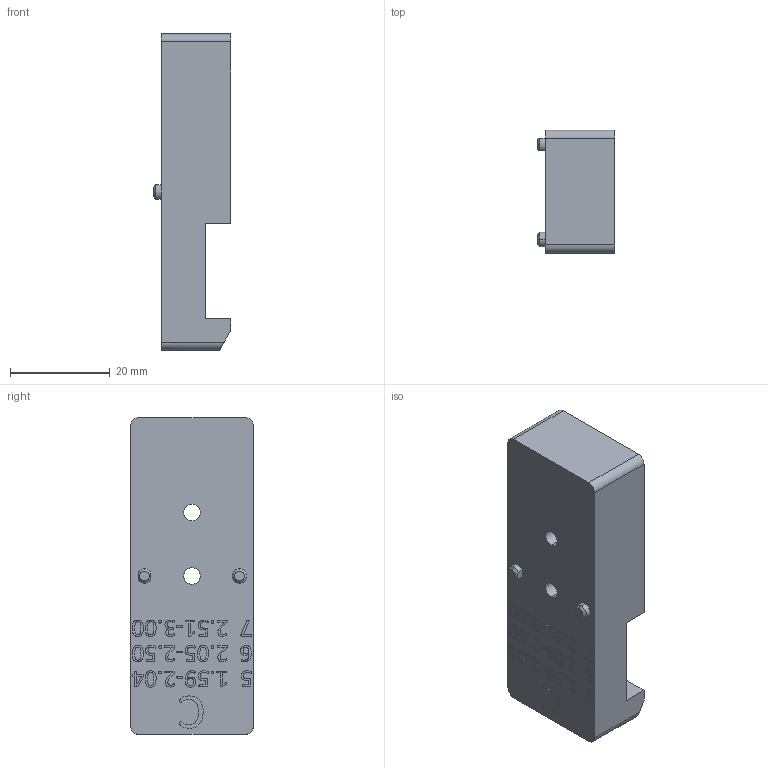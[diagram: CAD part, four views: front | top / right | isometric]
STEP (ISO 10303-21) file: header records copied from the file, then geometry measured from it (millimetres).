
FILE_DESCRIPTION (( 'STEP AP203' ), '1' );
FILE_NAME ('5011206_REV-A - SHAFT FINGER C.STEP', '2024-11-07T18:41:56', ( '' ), ( '' ), 'SwSTEP 2.0', 'SolidWorks 2019', '' );
FILE_SCHEMA (( 'CONFIG_CONTROL_DESIGN' ));
Length unit declared in the file: inch
Products named in the file (1): 5011206_REV-A - SHAFT FINGER C
Bounding box: 15.56 x 24.61 x 63.5 mm (x, y, z)
Volume: 19081.7 mm3; surface area: 5848.2 mm2
Topology: 1 solids, 1 shells, 412 faces, 1104 edges, 735 vertices
Faces by surface type: bspline 267, plane 128, cylinder 13, cone 4
Entity records: 25720 total; most frequent: CARTESIAN_POINT 17151, ORIENTED_EDGE 2208, EDGE_CURVE 1104, DIRECTION 887, VERTEX_POINT 735, VECTOR 537, LINE 537, B_SPLINE_CURVE_WITH_KNOTS 536
